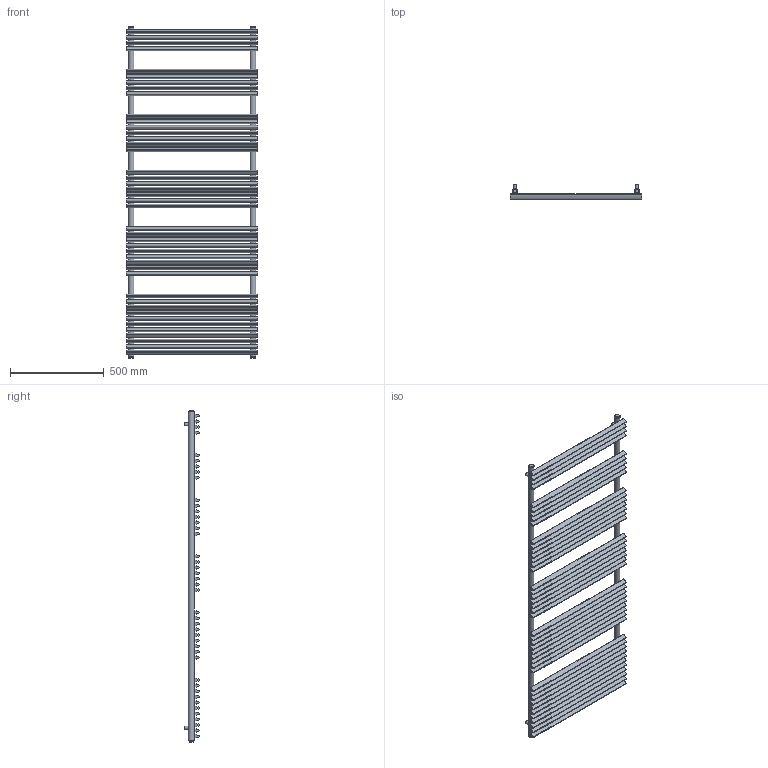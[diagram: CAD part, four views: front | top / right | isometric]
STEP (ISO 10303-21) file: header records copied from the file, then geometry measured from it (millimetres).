
FILE_DESCRIPTION(/* description */ (''),/* implementation_level */ '2;1');
FILE_NAME(/* name */ 'C:\Grzejniki\13DLUXRAD\łazienkowe\CALIDO\CALIDO 1760x700.iam.stp',/* time_stamp */ '2016-06-28T17:34:27+02:00',/* author */ ('m.szydziak'),/* organization */ (''),/* preprocessor_version */ 'ST-DEVELOPER v16.5',/* originating_system */ 'Autodesk Inventor 2017',/* authorisation */ '');
FILE_SCHEMA (('AUTOMOTIVE_DESIGN { 1 0 10303 214 3 1 1 }'));
Length unit declared in the file: millimetre
Products named in the file (5): CALIDO 1760x700; fi30x1,5x1760; 30x20x1,2x700; uchwyt stały; korek
Assembly tree (53 placements, depth 2):
  CALIDO 1760x700
    fi30x1,5x1760  x2
    30x20x1,2x700  x43
    uchwyt stały  x4
    korek  x4
Bounding box: 700 x 82 x 1772 mm (x, y, z)
Volume: 3255648.2 mm3; surface area: 5259510 mm2
Topology: 53 solids, 53 shells, 866 faces, 2360 edges, 1690 vertices
Faces by surface type: cylinder 622, plane 244
Full cylindrical faces by diameter (mm): 5 x86, 6 x86, 15 x4, 18 x4, 18.631 x4, 24 x4, 27 x2, 30 x2
Entity records: 6250 total; most frequent: CARTESIAN_POINT 3610, ORIENTED_EDGE 428, DIRECTION 412, EDGE_LOOP 234, EDGE_CURVE 214, VERTEX_POINT 192, AXIS2_PLACEMENT_3D 189, FACE_BOUND 148
